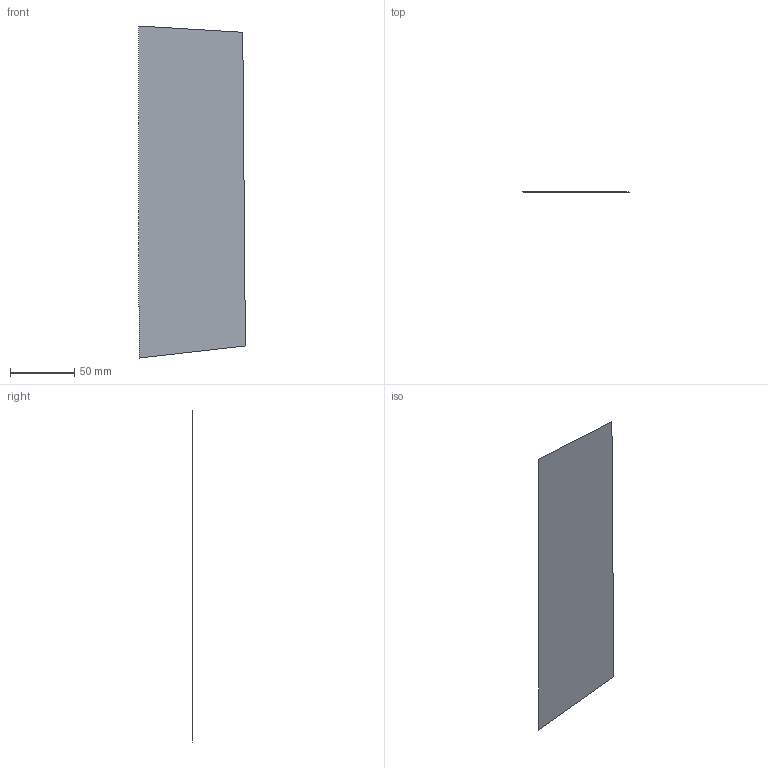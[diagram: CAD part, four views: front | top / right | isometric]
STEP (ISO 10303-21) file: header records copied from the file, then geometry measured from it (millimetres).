
FILE_DESCRIPTION(('3DEXPERIENCE STEP','CAx-IF Rec.Pracs.--- Model Styling and Organization---1.5--- 2016-08-15','CAx-IF Rec.Pracs.---Supplemental Geometry---1.0---2011-11-01','CAx-IF Rec.Pracs.--- Composite Materials ---3.4---2017-06-13','CAx-IF Rec.Pracs.---Tessellated 3D Geometry---1.0---2015-12-17'),'2;1');
FILE_NAME('C:\Users\user\target_structure.stp','2025-09-16T09:26:59+00:00',('none'),('none'),'3DEXPERIENCE Platform3DEXPERIENCE R2025x HotFix 6','3DEXPERIENCE Platform STEP AP242 v3','none');
FILE_SCHEMA(('AP242_MANAGED_MODEL_BASED_3D_ENGINEERING_MIM_LF {1 0 10303 442 1 1 4}'));
Length unit declared in the file: millimetre
Products named in the file (1): MY_PRODUCT
Bounding box: 83.03 x 0 x 258.19 mm (x, y, z)
Surface area: 20578.2 mm2 (no closed solid volume)
Topology: 0 solids, 1 shells, 1 faces, 7 edges, 10 vertices
Faces by surface type: bspline 1
Entity records: 264 total; most frequent: CARTESIAN_POINT 193, B_SPLINE_CURVE_WITH_KNOTS 7, STYLED_ITEM 4, PRESENTATION_STYLE_ASSIGNMENT 4, EDGE_CURVE 4, ORIENTED_EDGE 4, VERTEX_POINT 4, TRIMMED_CURVE 3
